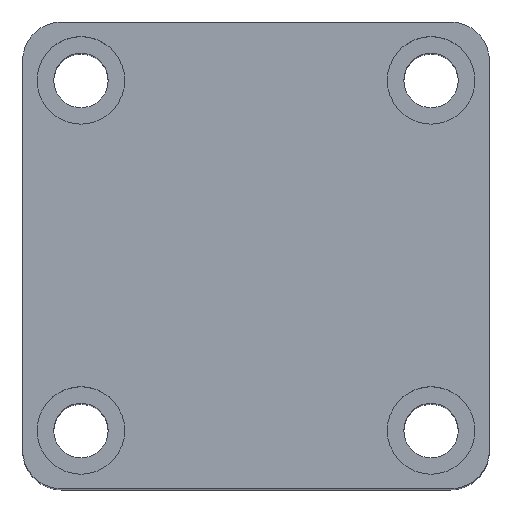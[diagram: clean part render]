
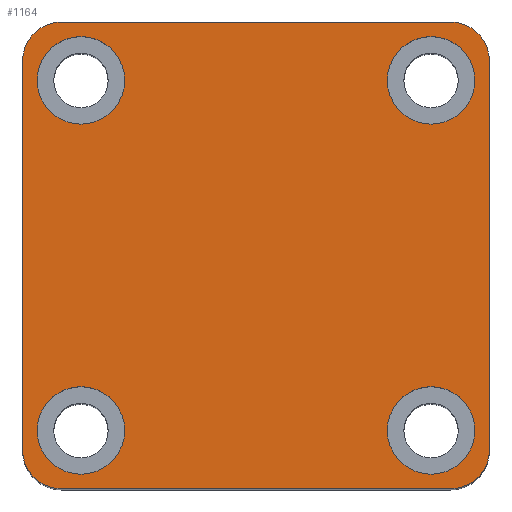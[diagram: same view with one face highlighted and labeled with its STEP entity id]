
A CAD part, top view. The second image highlights one B-rep face of the part: STEP entity #1164.
In plain terms, the highlighted planar face has unit normal (0, 0, 1).
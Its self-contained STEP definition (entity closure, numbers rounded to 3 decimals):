
#70 = EDGE_LOOP ( 'NONE', ( #1028, #1098 ) ) ;
#158 = VERTEX_POINT ( 'NONE', #1536 ) ;
#170 = VERTEX_POINT ( 'NONE', #1456 ) ;
#182 = VERTEX_POINT ( 'NONE', #1410 ) ;
#186 = VERTEX_POINT ( 'NONE', #1394 ) ;
#191 = VERTEX_POINT ( 'NONE', #1376 ) ;
#199 = VERTEX_POINT ( 'NONE', #1341 ) ;
#214 = VERTEX_POINT ( 'NONE', #1295 ) ;
#217 = VERTEX_POINT ( 'NONE', #1302 ) ;
#230 = VERTEX_POINT ( 'NONE', #1255 ) ;
#239 = ORIENTED_EDGE ( 'NONE', *, *, #1845, .T. ) ;
#241 = ORIENTED_EDGE ( 'NONE', *, *, #1936, .T. ) ;
#242 = ORIENTED_EDGE ( 'NONE', *, *, #1840, .T. ) ;
#248 = VERTEX_POINT ( 'NONE', #1219 ) ;
#254 = VERTEX_POINT ( 'NONE', #1211 ) ;
#267 = VERTEX_POINT ( 'NONE', #1197 ) ;
#277 = VERTEX_POINT ( 'NONE', #1628 ) ;
#307 = VERTEX_POINT ( 'NONE', #1627 ) ;
#312 = VERTEX_POINT ( 'NONE', #1631 ) ;
#327 = VERTEX_POINT ( 'NONE', #1617 ) ;
#355 = EDGE_LOOP ( 'NONE', ( #913, #1021, #773, #863, #475, #239, #241, #242 ) ) ;
#455 = EDGE_LOOP ( 'NONE', ( #980, #847 ) ) ;
#458 = EDGE_LOOP ( 'NONE', ( #965, #1034 ) ) ;
#470 = EDGE_LOOP ( 'NONE', ( #968, #1024 ) ) ;
#475 = ORIENTED_EDGE ( 'NONE', *, *, #1948, .T. ) ;
#736 = FACE_BOUND ( 'NONE', #70, .T. ) ;
#767 = FACE_BOUND ( 'NONE', #470, .T. ) ;
#773 = ORIENTED_EDGE ( 'NONE', *, *, #1944, .T. ) ;
#783 = FACE_OUTER_BOUND ( 'NONE', #355, .T. ) ;
#846 = CIRCLE ( 'NONE', #1693, 4. ) ;
#847 = ORIENTED_EDGE ( 'NONE', *, *, #1899, .F. ) ;
#862 = FACE_BOUND ( 'NONE', #458, .T. ) ;
#863 = ORIENTED_EDGE ( 'NONE', *, *, #1844, .T. ) ;
#864 = CIRCLE ( 'NONE', #1687, 4.5 ) ;
#900 = CIRCLE ( 'NONE', #1688, 4.5 ) ;
#913 = ORIENTED_EDGE ( 'NONE', *, *, #1942, .T. ) ;
#947 = CIRCLE ( 'NONE', #1691, 4. ) ;
#965 = ORIENTED_EDGE ( 'NONE', *, *, #1692, .F. ) ;
#968 = ORIENTED_EDGE ( 'NONE', *, *, #1838, .F. ) ;
#980 = ORIENTED_EDGE ( 'NONE', *, *, #1842, .F. ) ;
#1008 = CIRCLE ( 'NONE', #1685, 4. ) ;
#1021 = ORIENTED_EDGE ( 'NONE', *, *, #1839, .T. ) ;
#1024 = ORIENTED_EDGE ( 'NONE', *, *, #1907, .F. ) ;
#1028 = ORIENTED_EDGE ( 'NONE', *, *, #1843, .F. ) ;
#1033 = CIRCLE ( 'NONE', #1695, 4.5 ) ;
#1034 = ORIENTED_EDGE ( 'NONE', *, *, #1895, .F. ) ;
#1038 = CIRCLE ( 'NONE', #1686, 4. ) ;
#1050 = CIRCLE ( 'NONE', #1729, 4.5 ) ;
#1088 = FACE_BOUND ( 'NONE', #455, .T. ) ;
#1098 = ORIENTED_EDGE ( 'NONE', *, *, #1903, .F. ) ;
#1164 = ADVANCED_FACE ( 'NONE', ( #862, #1088, #736, #767, #783 ), #1385, .T. ) ;
#1197 = CARTESIAN_POINT ( 'NONE',  ( 24., 20., 70. ) ) ;
#1211 = CARTESIAN_POINT ( 'NONE',  ( 24., -20., 70. ) ) ;
#1219 = CARTESIAN_POINT ( 'NONE',  ( -13.5, 18., 70. ) ) ;
#1228 = DIRECTION ( 'NONE',  ( 1., 0., 0. ) ) ;
#1229 = DIRECTION ( 'NONE',  ( 0., 0., 1. ) ) ;
#1230 = CARTESIAN_POINT ( 'NONE',  ( -18., 18., 70. ) ) ;
#1255 = CARTESIAN_POINT ( 'NONE',  ( -24., 20., 70. ) ) ;
#1295 = CARTESIAN_POINT ( 'NONE',  ( 22.5, 18., 70. ) ) ;
#1302 = CARTESIAN_POINT ( 'NONE',  ( 22.5, -18., 70. ) ) ;
#1341 = CARTESIAN_POINT ( 'NONE',  ( 13.5, 18., 70. ) ) ;
#1376 = CARTESIAN_POINT ( 'NONE',  ( -24., -20., 70. ) ) ;
#1380 = DIRECTION ( 'NONE',  ( 1., 0., 0. ) ) ;
#1383 = CARTESIAN_POINT ( 'NONE',  ( 0., 0., 70. ) ) ;
#1385 = PLANE ( 'NONE',  #1768 ) ;
#1388 = DIRECTION ( 'NONE',  ( 0., 0., 1. ) ) ;
#1394 = CARTESIAN_POINT ( 'NONE',  ( -22.5, -18., 70. ) ) ;
#1410 = CARTESIAN_POINT ( 'NONE',  ( 20., -24., 70. ) ) ;
#1456 = CARTESIAN_POINT ( 'NONE',  ( -13.5, -18., 70. ) ) ;
#1536 = CARTESIAN_POINT ( 'NONE',  ( 20., 24., 70. ) ) ;
#1617 = CARTESIAN_POINT ( 'NONE',  ( 13.5, -18., 70. ) ) ;
#1627 = CARTESIAN_POINT ( 'NONE',  ( -22.5, 18., 70. ) ) ;
#1628 = CARTESIAN_POINT ( 'NONE',  ( -20., 24., 70. ) ) ;
#1631 = CARTESIAN_POINT ( 'NONE',  ( -20., -24., 70. ) ) ;
#1651 = AXIS2_PLACEMENT_3D ( 'NONE', #2611, #2610, #2608 ) ;
#1653 = AXIS2_PLACEMENT_3D ( 'NONE', #2629, #2628, #2627 ) ;
#1655 = AXIS2_PLACEMENT_3D ( 'NONE', #2645, #2644, #2643 ) ;
#1657 = AXIS2_PLACEMENT_3D ( 'NONE', #2659, #2656, #2655 ) ;
#1685 = AXIS2_PLACEMENT_3D ( 'NONE', #2527, #2518, #2539 ) ;
#1686 = AXIS2_PLACEMENT_3D ( 'NONE', #2556, #2537, #2536 ) ;
#1687 = AXIS2_PLACEMENT_3D ( 'NONE', #2548, #2547, #2546 ) ;
#1688 = AXIS2_PLACEMENT_3D ( 'NONE', #2555, #2554, #2561 ) ;
#1691 = AXIS2_PLACEMENT_3D ( 'NONE', #2580, #2582, #2579 ) ;
#1692 = EDGE_CURVE ( 'NONE', #248, #307, #1050, .T. ) ;
#1693 = AXIS2_PLACEMENT_3D ( 'NONE', #2588, #2590, #2587 ) ;
#1695 = AXIS2_PLACEMENT_3D ( 'NONE', #2594, #2597, #2595 ) ;
#1729 = AXIS2_PLACEMENT_3D ( 'NONE', #1230, #1229, #1228 ) ;
#1768 = AXIS2_PLACEMENT_3D ( 'NONE', #1383, #1388, #1380 ) ;
#1838 = EDGE_CURVE ( 'NONE', #217, #327, #1033, .T. ) ;
#1839 = EDGE_CURVE ( 'NONE', #277, #230, #846, .T. ) ;
#1840 = EDGE_CURVE ( 'NONE', #267, #158, #947, .T. ) ;
#1842 = EDGE_CURVE ( 'NONE', #214, #199, #900, .T. ) ;
#1843 = EDGE_CURVE ( 'NONE', #170, #186, #864, .T. ) ;
#1844 = EDGE_CURVE ( 'NONE', #191, #312, #1038, .T. ) ;
#1845 = EDGE_CURVE ( 'NONE', #182, #254, #1008, .T. ) ;
#1895 = EDGE_CURVE ( 'NONE', #307, #248, #2167, .T. ) ;
#1899 = EDGE_CURVE ( 'NONE', #199, #214, #2161, .T. ) ;
#1903 = EDGE_CURVE ( 'NONE', #186, #170, #2155, .T. ) ;
#1907 = EDGE_CURVE ( 'NONE', #327, #217, #2149, .T. ) ;
#1936 = EDGE_CURVE ( 'NONE', #254, #267, #2100, .T. ) ;
#1942 = EDGE_CURVE ( 'NONE', #158, #277, #2089, .T. ) ;
#1944 = EDGE_CURVE ( 'NONE', #230, #191, #2085, .T. ) ;
#1948 = EDGE_CURVE ( 'NONE', #312, #182, #2077, .T. ) ;
#2074 = VECTOR ( 'NONE', #2447, 1000. ) ;
#2077 = LINE ( 'NONE', #2448, #2074 ) ;
#2082 = VECTOR ( 'NONE', #2456, 1000. ) ;
#2085 = LINE ( 'NONE', #2457, #2082 ) ;
#2086 = VECTOR ( 'NONE', #2461, 1000. ) ;
#2089 = LINE ( 'NONE', #2462, #2086 ) ;
#2098 = VECTOR ( 'NONE', #2496, 1000. ) ;
#2100 = LINE ( 'NONE', #2497, #2098 ) ;
#2149 = CIRCLE ( 'NONE', #1651, 4.5 ) ;
#2155 = CIRCLE ( 'NONE', #1653, 4.5 ) ;
#2161 = CIRCLE ( 'NONE', #1655, 4.5 ) ;
#2167 = CIRCLE ( 'NONE', #1657, 4.5 ) ;
#2447 = DIRECTION ( 'NONE',  ( 1., 0., 0. ) ) ;
#2448 = CARTESIAN_POINT ( 'NONE',  ( -24., -24., 70. ) ) ;
#2456 = DIRECTION ( 'NONE',  ( 0., -1., 0. ) ) ;
#2457 = CARTESIAN_POINT ( 'NONE',  ( -24., 24., 70. ) ) ;
#2461 = DIRECTION ( 'NONE',  ( -1., 0., 0. ) ) ;
#2462 = CARTESIAN_POINT ( 'NONE',  ( -24., 24., 70. ) ) ;
#2496 = DIRECTION ( 'NONE',  ( 0., 1., 0. ) ) ;
#2497 = CARTESIAN_POINT ( 'NONE',  ( 24., 24., 70. ) ) ;
#2518 = DIRECTION ( 'NONE',  ( 0., 0., 1. ) ) ;
#2527 = CARTESIAN_POINT ( 'NONE',  ( 20., -20., 70. ) ) ;
#2536 = DIRECTION ( 'NONE',  ( 1., 0., 0. ) ) ;
#2537 = DIRECTION ( 'NONE',  ( 0., 0., 1. ) ) ;
#2539 = DIRECTION ( 'NONE',  ( 1., 0., 0. ) ) ;
#2546 = DIRECTION ( 'NONE',  ( 1., 0., 0. ) ) ;
#2547 = DIRECTION ( 'NONE',  ( 0., 0., 1. ) ) ;
#2548 = CARTESIAN_POINT ( 'NONE',  ( -18., -18., 70. ) ) ;
#2554 = DIRECTION ( 'NONE',  ( 0., 0., 1. ) ) ;
#2555 = CARTESIAN_POINT ( 'NONE',  ( 18., 18., 70. ) ) ;
#2556 = CARTESIAN_POINT ( 'NONE',  ( -20., -20., 70. ) ) ;
#2561 = DIRECTION ( 'NONE',  ( 1., 0., 0. ) ) ;
#2579 = DIRECTION ( 'NONE',  ( 1., 0., 0. ) ) ;
#2580 = CARTESIAN_POINT ( 'NONE',  ( 20., 20., 70. ) ) ;
#2582 = DIRECTION ( 'NONE',  ( 0., 0., 1. ) ) ;
#2587 = DIRECTION ( 'NONE',  ( 1., 0., 0. ) ) ;
#2588 = CARTESIAN_POINT ( 'NONE',  ( -20., 20., 70. ) ) ;
#2590 = DIRECTION ( 'NONE',  ( 0., 0., 1. ) ) ;
#2594 = CARTESIAN_POINT ( 'NONE',  ( 18., -18., 70. ) ) ;
#2595 = DIRECTION ( 'NONE',  ( 1., 0., 0. ) ) ;
#2597 = DIRECTION ( 'NONE',  ( 0., 0., 1. ) ) ;
#2608 = DIRECTION ( 'NONE',  ( 1., 0., 0. ) ) ;
#2610 = DIRECTION ( 'NONE',  ( 0., 0., 1. ) ) ;
#2611 = CARTESIAN_POINT ( 'NONE',  ( 18., -18., 70. ) ) ;
#2627 = DIRECTION ( 'NONE',  ( 1., 0., 0. ) ) ;
#2628 = DIRECTION ( 'NONE',  ( 0., 0., 1. ) ) ;
#2629 = CARTESIAN_POINT ( 'NONE',  ( -18., -18., 70. ) ) ;
#2643 = DIRECTION ( 'NONE',  ( 1., 0., 0. ) ) ;
#2644 = DIRECTION ( 'NONE',  ( 0., 0., 1. ) ) ;
#2645 = CARTESIAN_POINT ( 'NONE',  ( 18., 18., 70. ) ) ;
#2655 = DIRECTION ( 'NONE',  ( 1., 0., 0. ) ) ;
#2656 = DIRECTION ( 'NONE',  ( 0., 0., 1. ) ) ;
#2659 = CARTESIAN_POINT ( 'NONE',  ( -18., 18., 70. ) ) ;
